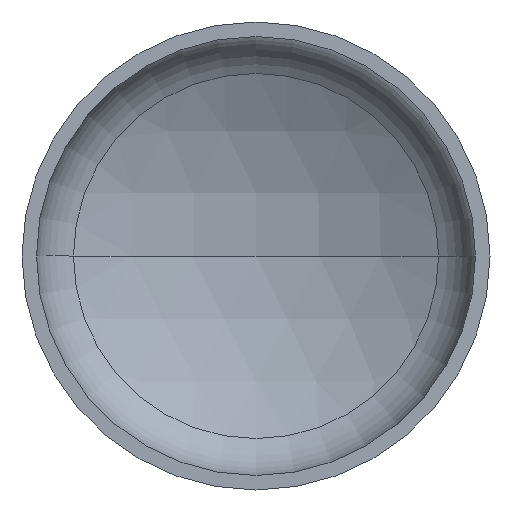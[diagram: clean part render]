
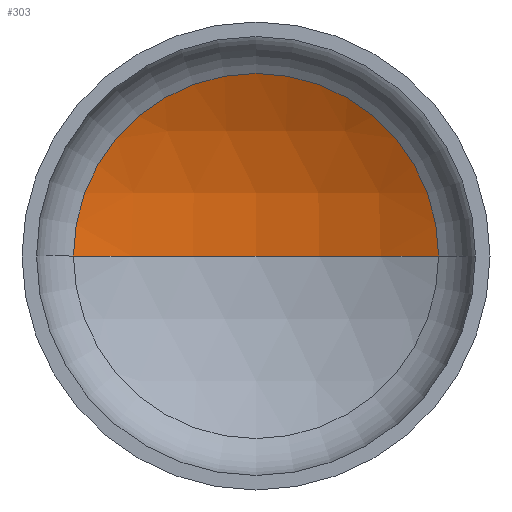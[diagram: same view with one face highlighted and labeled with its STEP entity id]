
A CAD part, front view. The second image highlights one B-rep face of the part: STEP entity #303.
In plain terms, the highlighted spherical face has radius 3040 mm.
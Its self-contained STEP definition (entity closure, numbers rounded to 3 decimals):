
#4 = CARTESIAN_POINT ( 'NONE',  ( 1482.232, 585.752, 0. ) ) ;
#7 = AXIS2_PLACEMENT_3D ( 'NONE', #352, #87, #252 ) ;
#12 = AXIS2_PLACEMENT_3D ( 'NONE', #268, #273, #403 ) ;
#14 = AXIS2_PLACEMENT_3D ( 'NONE', #131, #135, #154 ) ;
#20 = AXIS2_PLACEMENT_3D ( 'NONE', #272, #250, #177 ) ;
#28 = EDGE_LOOP ( 'NONE', ( #123, #73, #43 ) ) ;
#43 = ORIENTED_EDGE ( 'NONE', *, *, #327, .T. ) ;
#71 = CIRCLE ( 'NONE', #12, 3040. ) ;
#73 = ORIENTED_EDGE ( 'NONE', *, *, #334, .T. ) ;
#83 = CIRCLE ( 'NONE', #14, 1482.232 ) ;
#87 = DIRECTION ( 'NONE',  ( 0., 0., 1. ) ) ;
#123 = ORIENTED_EDGE ( 'NONE', *, *, #339, .F. ) ;
#131 = CARTESIAN_POINT ( 'NONE',  ( 0., 585.752, 0. ) ) ;
#135 = DIRECTION ( 'NONE',  ( 0., -1., 0. ) ) ;
#144 = VERTEX_POINT ( 'NONE', #209 ) ;
#146 = VERTEX_POINT ( 'NONE', #217 ) ;
#154 = DIRECTION ( 'NONE',  ( 1., 0., 0. ) ) ;
#177 = DIRECTION ( 'NONE',  ( -1., 0., 0. ) ) ;
#209 = CARTESIAN_POINT ( 'NONE',  ( -1482.232, 585.752, 0. ) ) ;
#217 = CARTESIAN_POINT ( 'NONE',  ( 0., 971.588, 0. ) ) ;
#250 = DIRECTION ( 'NONE',  ( 0., 0., -1. ) ) ;
#252 = DIRECTION ( 'NONE',  ( 1., 0., 0. ) ) ;
#259 = VERTEX_POINT ( 'NONE', #4 ) ;
#268 = CARTESIAN_POINT ( 'NONE',  ( 0., -2068.412, 0. ) ) ;
#272 = CARTESIAN_POINT ( 'NONE',  ( 0., -2068.412, 0. ) ) ;
#273 = DIRECTION ( 'NONE',  ( 0., 0., -1. ) ) ;
#303 = ADVANCED_FACE ( 'NONE', ( #385 ), #319, .F. ) ;
#319 = SPHERICAL_SURFACE ( 'NONE', #20, 3040. ) ;
#327 = EDGE_CURVE ( 'NONE', #259, #144, #83, .T. ) ;
#334 = EDGE_CURVE ( 'NONE', #146, #259, #71, .T. ) ;
#339 = EDGE_CURVE ( 'NONE', #146, #144, #372, .T. ) ;
#352 = CARTESIAN_POINT ( 'NONE',  ( 0., -2068.412, 0. ) ) ;
#372 = CIRCLE ( 'NONE', #7, 3040. ) ;
#385 = FACE_OUTER_BOUND ( 'NONE', #28, .T. ) ;
#403 = DIRECTION ( 'NONE',  ( -1., 0., 0. ) ) ;
